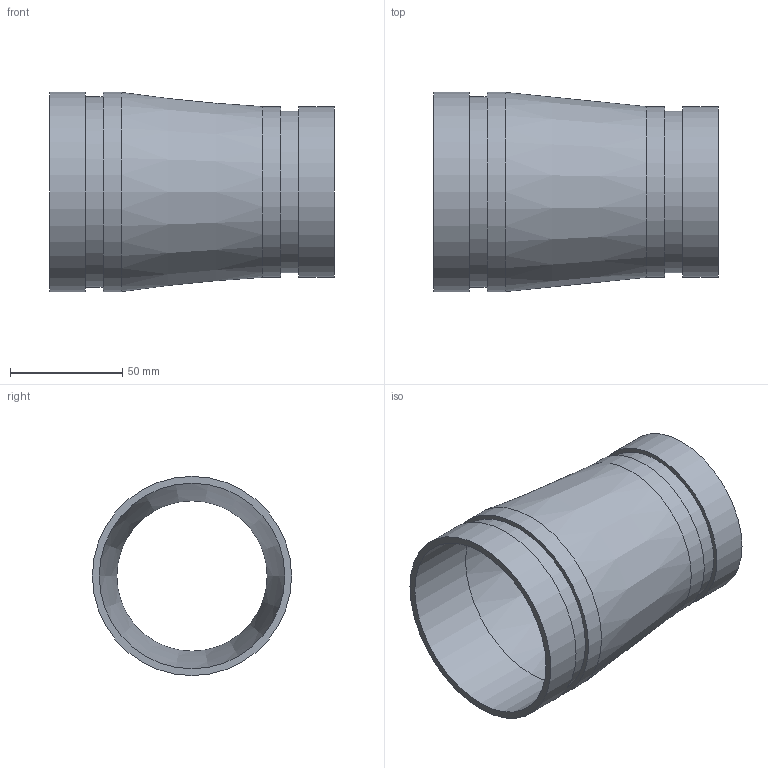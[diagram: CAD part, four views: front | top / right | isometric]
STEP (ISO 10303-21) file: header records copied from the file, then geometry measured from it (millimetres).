
FILE_DESCRIPTION(/* description */ ('VIC REDUCER CONCENTRIC No 450-SS','CAx-IF Rec.Pracs.---Representation and Presentation of Product Manufacturing Information (PMI)---4.0---2014-10-13'),/* implementation_level */ '2;1');
FILE_NAME(/* name */ 'C:\Users\kkamble\AppData\Roaming\Autodesk\ApplicationPlugins\Back Up\Victaulic_SS-OGS_Reducer Concentric_Sched 10S_No 450 SS (OGS)\Victaulic_SS-OGS_Reducer Concentric_Sched 10S_No 450 SS (OGS)_03.0x02.5 (76.1) (80x65).stp',/* time_stamp */ '2020-09-08T12:32:53+05:00',/* author */ ('CORINNE GRAY'),/* organization */ ('Victaulic'),/* preprocessor_version */ 'ST-DEVELOPER v17.2',/* originating_system */ 'Autodesk Inventor 2019',/* authorisation */ '');
FILE_SCHEMA (('AP242_MANAGED_MODEL_BASED_3D_ENGINEERING_MIM_LF { 1 0 10303 442 1 1 4 }'));
Length unit declared in the file: inch
Products named in the file (1): 450 SS-03.0x02.5 (76.1)
Bounding box: 127 x 88.9 x 88.9 mm (x, y, z)
Volume: 110296.5 mm3; surface area: 66683.6 mm2
Topology: 1 solids, 1 shells, 16 faces, 42 edges, 32 vertices
Faces by surface type: cylinder 8, plane 6, cone 2
Full cylindrical faces by diameter (mm): 67.056 x1, 72.263 x1, 76.2 x2, 82.804 x1, 84.938 x1, 88.9 x2
Entity records: 686 total; most frequent: DIRECTION 134, CARTESIAN_POINT 108, ORIENTED_EDGE 84, AXIS2_PLACEMENT_3D 62, EDGE_CURVE 42, CIRCLE 32, VERTEX_POINT 32, EDGE_LOOP 22
